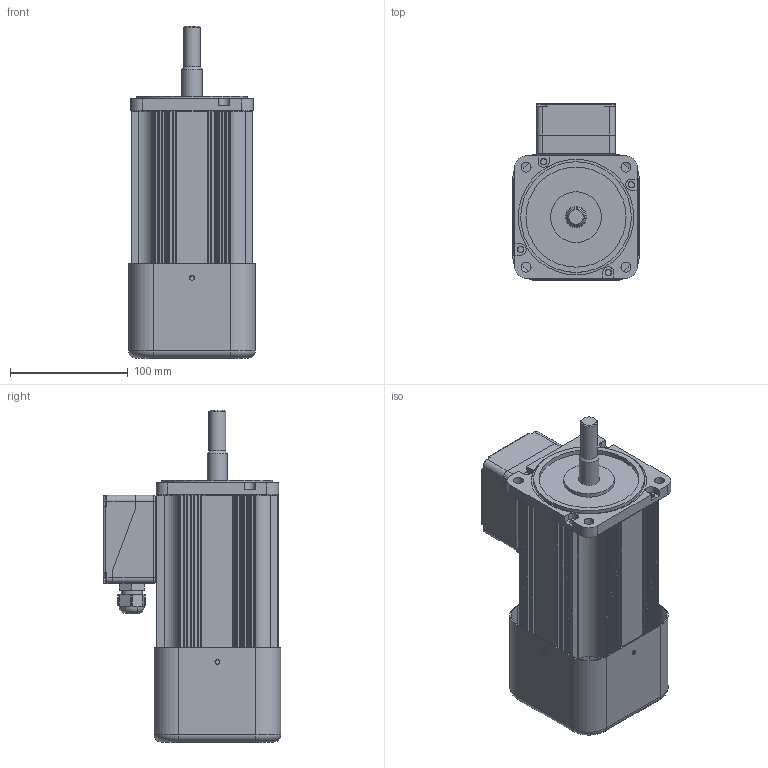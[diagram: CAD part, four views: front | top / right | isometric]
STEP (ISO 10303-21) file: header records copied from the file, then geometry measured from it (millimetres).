
FILE_DESCRIPTION (( 'STEP AP203' ), '1' );
FILE_NAME ('10BDG¤±-400FHC-T.STEP', '2020-06-19T07:50:44', ( '' ), ( '' ), 'SwSTEP 2.0', 'SolidWorks 2012', '' );
FILE_SCHEMA (( 'CONFIG_CONTROL_DESIGN' ));
Length unit declared in the file: millimetre
Products named in the file (10): 10BDG､ｱ-400FHC-T; 104 FC-BF; 褻董(欽濠夢蝶)_ル遽; жっ堅鼠だ韁_ル遽; Щ滓衛綰_ル遽; 鼻っ_ル遽; жっ_ル遽; FRONT COVER(FHC¿ë); BACK COVER; 104 CASE
Assembly tree (9 placements, depth 3):
  10BDG､ｱ-400FHC-T
    104 CASE
    BACK COVER
    FRONT COVER(FHC¿ë)
    褻董(欽濠夢蝶)_ル遽
      жっ_ル遽
      鼻っ_ル遽
      Щ滓衛綰_ル遽
      жっ堅鼠だ韁_ル遽
    104 FC-BF
Bounding box: 107.4 x 150.4 x 281.8 mm (x, y, z)
Volume: 1582758.1 mm3; surface area: 272152.6 mm2
Topology: 9 solids, 9 shells, 908 faces, 2485 edges, 1631 vertices
Faces by surface type: cylinder 444, plane 420, torus 32, cone 6, bspline 6
Full cylindrical faces by diameter (mm): 1.5 x8, 3.5 x4, 4 x15, 4.5 x4, 5 x12, 5.5 x8, 6 x1, 8.5 x4, 9 x1, 10.8 x1, 11 x2, 12.5 x1, 13 x1, 14.38 x1, 17 x1, 18 x2, 18.001 x1, 20.5 x1, 43 x1, 52.001 x1, 85 x1, 93 x1, 94 x1, 95 x1, 95.5 x1, 97 x2, 97.001 x1, 98 x1
Entity records: 30004 total; most frequent: CARTESIAN_POINT 5501, DIRECTION 5070, ORIENTED_EDGE 4756, EDGE_CURVE 2378, AXIS2_PLACEMENT_3D 1858, VERTEX_POINT 1609, LINE 1354, VECTOR 1354
